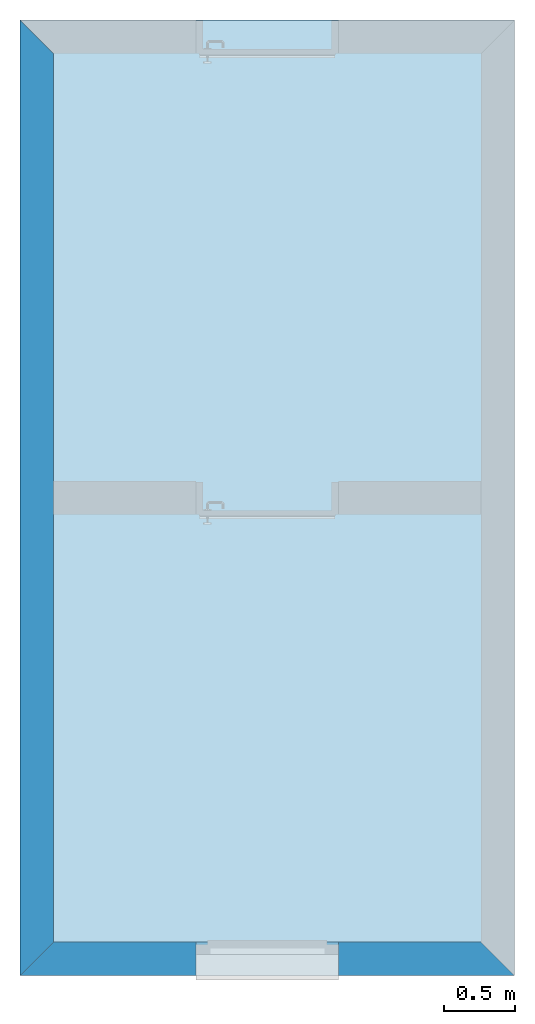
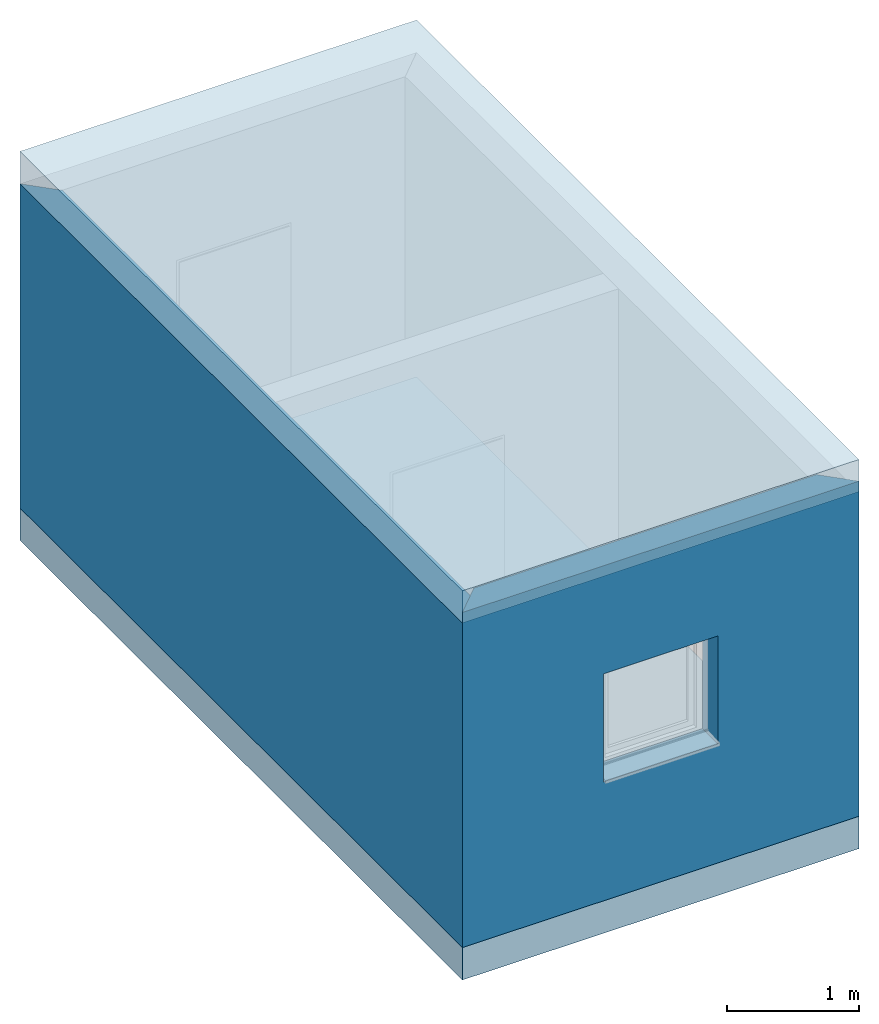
# One storey, part 1 of 4: 2 slabs, 2 walls, 1 opening.
"""IFC2X3 building model written with IfcOpenShell, lengths in millimetres."""

from ifc_helpers import new_model, entity, si_unit, converted_unit, money_unit, direction, frame, origin_with_axes, origin_2d_with_axis, place, context, subcontext, project, spatial, polyline, rectangle, outline, extrude, material, layer, layer_set, layer_usage, type_object, element, save


model = new_model("IFC2X3")

# Units and contexts
model_context = context("Model", 3, precision=1e-05, world=origin_with_axes(), true_north=direction((0.0, 1.0)))
body_context = subcontext(model_context, "Body", "Model", "MODEL_VIEW")
ifc_project = project(units=[si_unit("LENGTHUNIT", "METRE", prefix="MILLI"), si_unit("AREAUNIT", "SQUARE_METRE"), si_unit("VOLUMEUNIT", "CUBIC_METRE"), converted_unit("PLANEANGLEUNIT", "DEGREE", entity("IfcPlaneAngleMeasure", 0.0174532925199), si_unit("PLANEANGLEUNIT", "RADIAN"), dimensions=[0, 0, 0, 0, 0, 0, 0]), si_unit("SOLIDANGLEUNIT", "STERADIAN"), money_unit("CHF"), converted_unit("TIMEUNIT", "Year", entity("IfcTimeMeasure", 31556926.0), si_unit("TIMEUNIT", "SECOND"), dimensions=[0, 0, 0, 0, 0, 0, 0]), si_unit("MASSUNIT", "GRAM"), si_unit("THERMODYNAMICTEMPERATUREUNIT", "DEGREE_CELSIUS"), si_unit("LUMINOUSINTENSITYUNIT", "LUMEN")], contexts=[model_context])

# Site, building, storey
site_placement = place(None, origin_with_axes())
site = spatial("IfcSite", under=ifc_project, at=site_placement, Name="Gel\x8ande", CompositionType="ELEMENT")
building_placement = place(site_placement, origin_with_axes())
building = spatial("IfcBuilding", under=site, at=building_placement, Name="Geb\x8aude", CompositionType="ELEMENT")
storey_placement = place(building_placement, frame((0.0, 0.0, 3100.0), z_axis=(0.0, 0.0, 1.0), x_axis=(1.0, 0.0, 0.0)))
storey = spatial("IfcBuildingStorey", under=building, at=storey_placement, Name="TowZone", CompositionType="ELEMENT", Elevation=3100.0)

# Slabs
ifc_material_1 = material(Name="Allgemein, Konstruktion")
ifc_layer_1 = layer(ifc_material_1, 300.0, ventilated="UNKNOWN")
ifc_layer_set_1 = layer_set([ifc_layer_1], Name="Allgemein, Konstruktion 300")
ifc_layer_usage_1 = layer_usage(ifc_layer_set_1, "AXIS3", "NEGATIVE", 300.0)
slab_type = type_object("IfcSlabType", Name="Allgemein, Konstruktion 300", PredefinedType="FLOOR")
slab_1_placement = place(storey_placement, frame((2606.86610583, -3235.0, 0.0), z_axis=(0.0, 0.0, 1.0), x_axis=(1.0, 0.0, 0.0)))
element("IfcSlab", 1, at=slab_1_placement, inside=storey, type_object=slab_type, material=ifc_layer_usage_1, Name="Floor", PredefinedType="FLOOR", context=body_context, shape_type="SweptSolid", body=[
    extrude(outline(polyline([(0.0, 0.0), (3470.0, 0.0), (3470.0, 6705.0), (0.0, 6705.0), (0.0, 0.0)])), frame((0.0, 0.0, -300.0), z_axis=(0.0, 0.0, 1.0), x_axis=(1.0, 0.0, 0.0)), (0.0, 0.0, 1.0), 300.0),
])
ifc_layer_usage_2 = layer_usage(ifc_layer_set_1, "AXIS3", "NEGATIVE", 300.0)
slab_2_placement = place(storey_placement, frame((2606.86610583, -3235.0, 3300.0), z_axis=(0.0, 0.0, 1.0), x_axis=(1.0, 0.0, 0.0)))
element("IfcSlab", 2, at=slab_2_placement, inside=storey, type_object=slab_type, material=ifc_layer_usage_2, Name="Floor", PredefinedType="FLOOR", context=body_context, shape_type="SweptSolid", body=[
    extrude(outline(polyline([(0.0, 0.0), (3470.0, 0.0), (3470.0, 6705.0), (0.0, 6705.0), (0.0, 0.0)])), frame((0.0, 0.0, -300.0), z_axis=(0.0, 0.0, 1.0), x_axis=(1.0, 0.0, 0.0)), (0.0, 0.0, 1.0), 300.0),
])

# Wall
ifc_material_2 = material(Name="Verputz, Innen")
ifc_layer_2 = layer(ifc_material_2, 15.0, ventilated="UNKNOWN")
ifc_material_3 = material(Name="Beton, Stahlbeton")
ifc_layer_3 = layer(ifc_material_3, 200.0, ventilated="UNKNOWN")
ifc_material_4 = material(Name="Verputz, Aussen")
ifc_layer_4 = layer(ifc_material_4, 20.0, ventilated="UNKNOWN")
ifc_layer_set_2 = layer_set([ifc_layer_2, ifc_layer_3, ifc_layer_4], Name="OneZone")
ifc_layer_usage_3 = layer_usage(ifc_layer_set_2, "AXIS2", "NEGATIVE", -2.77555756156e-14)
wall_type = type_object("IfcWallType", Name="OneZone 235", PredefinedType="NOTDEFINED")
wall_1_placement = place(storey_placement, frame((2841.86610583, 3470.0, 0.0), z_axis=(0.0, 0.0, 1.0), x_axis=(0.0, -1.0, 0.0)))
element("IfcWallStandardCase", 3, at=wall_1_placement, inside=storey, type_object=wall_type, material=ifc_layer_usage_3, Name="Wand-001", context=body_context, shape_type="SweptSolid", body=[
    extrude(outline(polyline([(0.0, -235.0), (6705.0, -235.0), (6470.0, 0.0), (235.0, 0.0), (0.0, -235.0)])), origin_with_axes(), (0.0, 0.0, 1.0), 3000.0),
])

# Wall, opening
ifc_layer_usage_4 = layer_usage(ifc_layer_set_2, "AXIS2", "POSITIVE", -235.0)
wall_2_placement = place(storey_placement, frame((5841.86610583, -3235.0, 0.0), z_axis=(0.0, 0.0, 1.0), x_axis=(-1.0, 0.0, 0.0)))
wall_2 = element("IfcWallStandardCase", 4, at=wall_2_placement, inside=storey, type_object=wall_type, material=ifc_layer_usage_4, Name="Wand-001", context=body_context, shape_type="SweptSolid", body=[
    extrude(outline(polyline([(0.0, -235.0), (3000.0, -235.0), (3235.0, 0.0), (-235.0, 0.0), (0.0, -235.0)])), origin_with_axes(), (0.0, 0.0, 1.0), 3100.0),
])
opening_placement = place(wall_2_placement, frame((1500.0, 0.0, 1150.0), z_axis=(0.0, 0.0, 1.0), x_axis=(1.0, 0.0, 0.0)))
element("IfcOpeningElement", 5, at=opening_placement, cuts=wall_2, Name="Fenster-001", context=body_context, shape_type="SweptSolid", body=[
    extrude(rectangle(XDim=1000.0, YDim=1000.0, at=origin_2d_with_axis()), frame((0.0, 235.0, 450.0), z_axis=(0.0, -1.0, 0.0), x_axis=(-1.0, 0.0, 0.0)), (0.0, 0.0, 1.0), 385.0),
    extrude(rectangle(XDim=1000.0, YDim=1000.0, at=origin_2d_with_axis()), frame((0.0, -470.0, 450.0), z_axis=(0.0, 1.0, 0.0), x_axis=(-1.0, 0.0, 0.0)), (0.0, 0.0, 1.0), 320.0),
])

save(model, "model.ifc")
